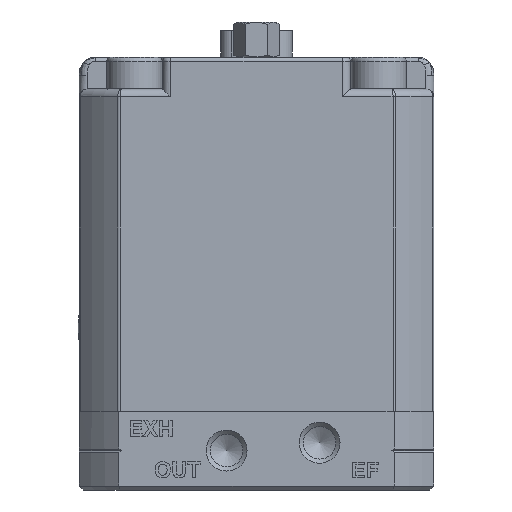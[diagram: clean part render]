
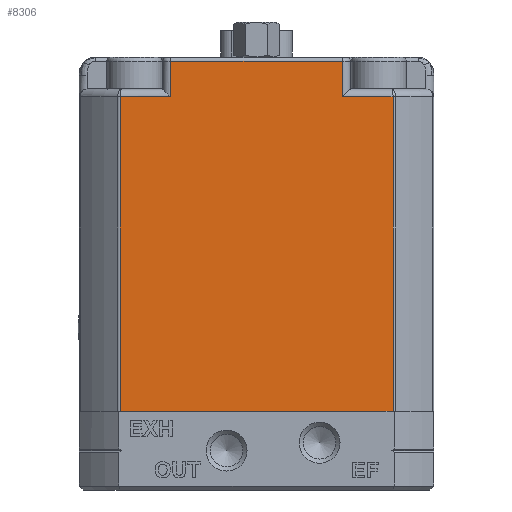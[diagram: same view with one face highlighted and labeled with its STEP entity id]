
A CAD part, left-side view. The second image highlights one B-rep face of the part: STEP entity #8306.
In plain terms, the highlighted planar face has unit normal (-1, 0, 0).
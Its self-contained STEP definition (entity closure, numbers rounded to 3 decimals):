
#463=LINE('',#12993,#1150);
#465=LINE('',#13002,#1152);
#466=LINE('',#13003,#1153);
#467=LINE('',#13005,#1154);
#468=LINE('',#13007,#1155);
#469=LINE('',#13009,#1156);
#470=LINE('',#13011,#1157);
#471=LINE('',#13012,#1158);
#1150=VECTOR('',#9699,10.);
#1152=VECTOR('',#9707,10.);
#1153=VECTOR('',#9708,10.);
#1154=VECTOR('',#9709,10.);
#1155=VECTOR('',#9710,10.);
#1156=VECTOR('',#9711,10.);
#1157=VECTOR('',#9712,10.);
#1158=VECTOR('',#9713,10.);
#2336=FACE_OUTER_BOUND('',#2806,.T.);
#2806=EDGE_LOOP('',(#5818,#5819,#5820,#5821,#5822,#5823,#5824,#5825));
#3742=VERTEX_POINT('',#12991);
#3743=VERTEX_POINT('',#12992);
#3746=VERTEX_POINT('',#13000);
#3747=VERTEX_POINT('',#13001);
#3748=VERTEX_POINT('',#13004);
#3749=VERTEX_POINT('',#13006);
#3750=VERTEX_POINT('',#13008);
#3751=VERTEX_POINT('',#13010);
#4568=EDGE_CURVE('',#3742,#3743,#463,.T.);
#4572=EDGE_CURVE('',#3746,#3747,#465,.T.);
#4573=EDGE_CURVE('',#3743,#3746,#466,.T.);
#4574=EDGE_CURVE('',#3748,#3742,#467,.T.);
#4575=EDGE_CURVE('',#3749,#3748,#468,.T.);
#4576=EDGE_CURVE('',#3750,#3749,#469,.T.);
#4577=EDGE_CURVE('',#3751,#3750,#470,.T.);
#4578=EDGE_CURVE('',#3747,#3751,#471,.T.);
#5818=ORIENTED_EDGE('',*,*,#4572,.F.);
#5819=ORIENTED_EDGE('',*,*,#4573,.F.);
#5820=ORIENTED_EDGE('',*,*,#4568,.F.);
#5821=ORIENTED_EDGE('',*,*,#4574,.F.);
#5822=ORIENTED_EDGE('',*,*,#4575,.F.);
#5823=ORIENTED_EDGE('',*,*,#4576,.F.);
#5824=ORIENTED_EDGE('',*,*,#4577,.F.);
#5825=ORIENTED_EDGE('',*,*,#4578,.F.);
#8037=PLANE('',#8829);
#8306=ADVANCED_FACE('',(#2336),#8037,.T.);
#8829=AXIS2_PLACEMENT_3D('',#12999,#9705,#9706);
#9699=DIRECTION('',(0.,0.,1.));
#9705=DIRECTION('center_axis',(-1.,0.,0.));
#9706=DIRECTION('ref_axis',(0.,0.,1.));
#9707=DIRECTION('',(0.,0.,-1.));
#9708=DIRECTION('',(0.,-1.,0.));
#9709=DIRECTION('',(0.,-1.,0.));
#9710=DIRECTION('',(0.,0.,1.));
#9711=DIRECTION('',(0.,1.,0.));
#9712=DIRECTION('',(0.,0.,-1.));
#9713=DIRECTION('',(0.,-1.,0.));
#12991=CARTESIAN_POINT('',(-22.5,10.9,49.9));
#12992=CARTESIAN_POINT('',(-22.5,10.9,54.4));
#12993=CARTESIAN_POINT('',(-22.5,10.9,32.45));
#12999=CARTESIAN_POINT('Origin',(-22.5,-22.5,0.));
#13000=CARTESIAN_POINT('',(-22.5,-10.9,54.4));
#13001=CARTESIAN_POINT('',(-22.5,-10.9,49.9));
#13002=CARTESIAN_POINT('',(-22.5,-10.9,32.45));
#13003=CARTESIAN_POINT('',(-22.5,-8.746,54.4));
#13004=CARTESIAN_POINT('',(-22.5,17.321,49.9));
#13005=CARTESIAN_POINT('',(-22.5,-0.308,49.9));
#13006=CARTESIAN_POINT('',(-22.5,17.321,10.));
#13007=CARTESIAN_POINT('',(-22.5,17.321,10.));
#13008=CARTESIAN_POINT('',(-22.5,-17.321,10.));
#13009=CARTESIAN_POINT('',(-22.5,-22.5,10.));
#13010=CARTESIAN_POINT('',(-22.5,-17.321,49.9));
#13011=CARTESIAN_POINT('',(-22.5,-17.321,10.));
#13012=CARTESIAN_POINT('',(-22.5,-17.185,49.9));
